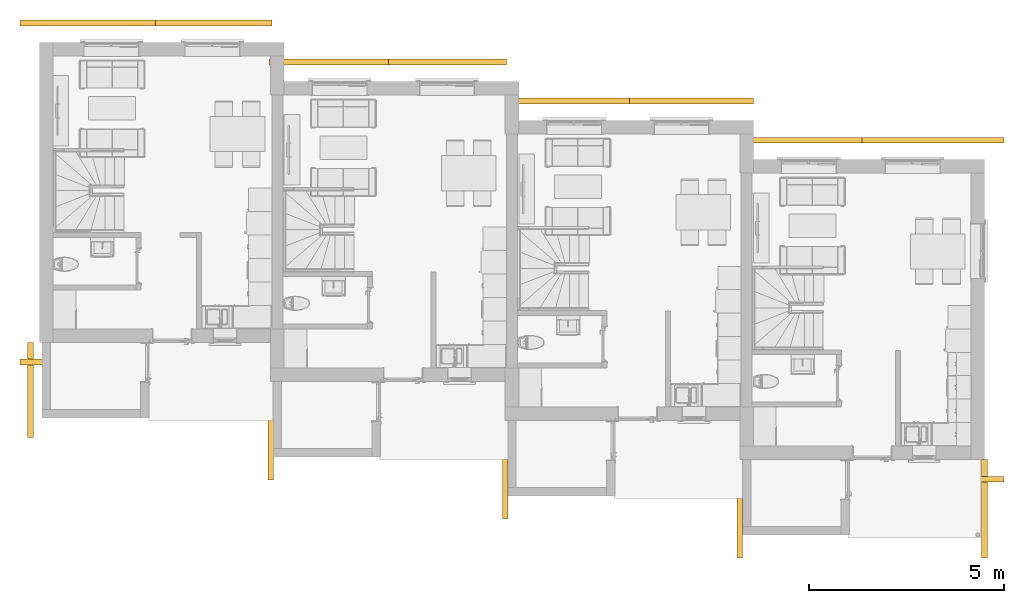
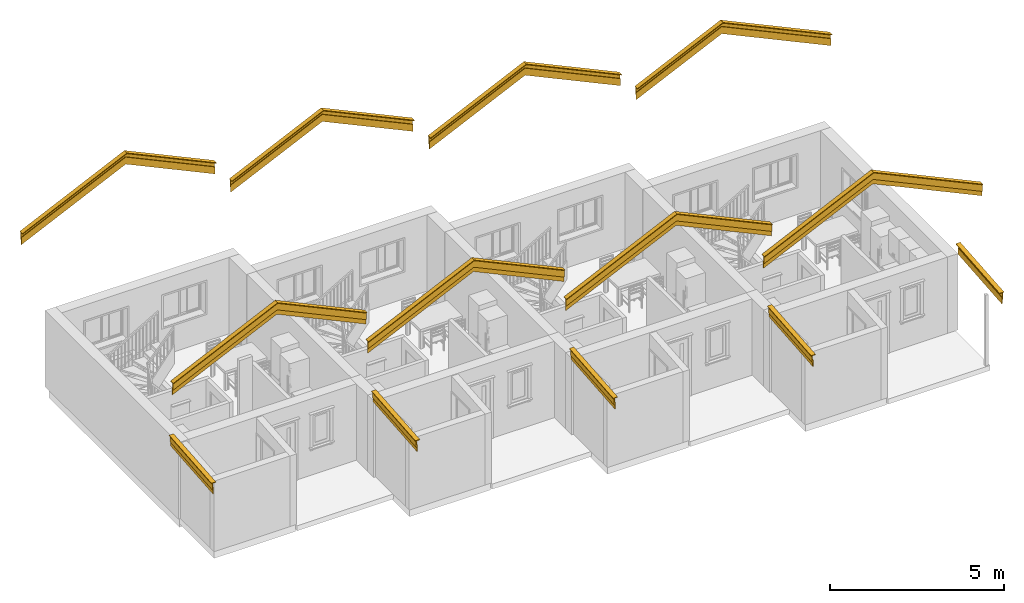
# One storey, part 27 of 65: 1 covering.
"""IFC2X3 building model written with IfcOpenShell, lengths in millimetres."""

import ifcopenshell
import ifcopenshell.guid

model = None  # the IFC model being written
_history = None  # IfcOwnerHistory: only IFC2X3 demands one
_inside = {}  # id of a spatial element -> (the spatial element, [elements in it])
_under = {}  # id of a project, library or spatial element -> (it, [spatial elements below it])
_declared = {}  # id of a project -> (the project, [libraries it declares])
_typed = {}  # id of a type object -> (the type object, [elements of that type])
_made_of = {}  # id of a material, layer set ... -> (it, [elements and type objects made of it])


def new_model(schema):
    """Start an empty IFC model of exactly this schema.

    Asked for "IFC4X3", IfcOpenShell would pick the latest addendum, in which some entities
    have other attributes; the version numbers below select the first issue.
    IFC2X3 requires an IfcOwnerHistory on every rooted entity: one is made here for all.
    """
    global model, _history
    if schema == "IFC4X3":
        model = ifcopenshell.file(schema_version=(4, 3, 0, 0))
    else:
        model = ifcopenshell.file(schema=schema)
    _inside.clear()
    _under.clear()
    _declared.clear()
    _typed.clear()
    _made_of.clear()
    _history = None
    if model.schema == "IFC2X3":
        org = make("IfcOrganization", Name="unknown")
        user = make(
            "IfcPersonAndOrganization",
            ThePerson=make("IfcPerson", FamilyName="unknown"),
            TheOrganization=org,
        )
        app = make(
            "IfcApplication",
            ApplicationDeveloper=org,
            Version="unknown",
            ApplicationFullName="unknown",
            ApplicationIdentifier="unknown",
        )
        _history = make(
            "IfcOwnerHistory",
            OwningUser=user,
            OwningApplication=app,
            ChangeAction="ADDED",
            CreationDate=0,
        )
    return model


def make(cls, **values):
    """One entity of the class cls with the attributes given. An attribute that is None is left unset."""
    return model.create_entity(
        cls, **{name: value for name, value in values.items() if value is not None}
    )


def entity(cls, *values):
    """Any entity or typed value of the class cls, its attributes in the order of the schema. None: left unset."""
    e = model.create_entity(cls)
    for i, value in enumerate(values):
        if value is not None:
            e[i] = value
    return e


def rooted(cls, **values):
    """An entity with a GlobalId (a new one), such as an element, a storey or a relation."""
    return make(cls, GlobalId=ifcopenshell.guid.new(), OwnerHistory=_history, **values)


def si_unit(unit_type, name, prefix=None):
    """IfcSIUnit, for example si_unit("LENGTHUNIT", "METRE", prefix="MILLI")."""
    return make("IfcSIUnit", UnitType=unit_type, Prefix=prefix, Name=name)


def converted_unit(unit_type, name, factor, base, dimensions=None, offset=None):
    """IfcConversionBasedUnit, such as the inch: factor (a typed value) times the base unit."""
    return make(
        "IfcConversionBasedUnit"
        if offset is None
        else "IfcConversionBasedUnitWithOffset",
        ConversionOffset=offset,
        Dimensions=None
        if dimensions is None
        else entity("IfcDimensionalExponents", *dimensions),
        UnitType=unit_type,
        Name=name,
        ConversionFactor=make(
            "IfcMeasureWithUnit", ValueComponent=factor, UnitComponent=base
        ),
    )


def assignment(units):
    """IfcUnitAssignment: the units of a project."""
    return None if units is None else make("IfcUnitAssignment", Units=units)


def point(xyz):
    """IfcCartesianPoint."""
    return None if xyz is None else make("IfcCartesianPoint", Coordinates=xyz)


def direction(xyz):
    """IfcDirection."""
    return None if xyz is None else make("IfcDirection", DirectionRatios=xyz)


def frame(location, z_axis=None, x_axis=None):
    """IfcAxis2Placement3D, a coordinate frame: its origin and axes. An axis left out is left unset."""
    return make(
        "IfcAxis2Placement3D",
        Location=point(location),
        Axis=direction(z_axis),
        RefDirection=direction(x_axis),
    )


def origin():
    """The frame at (0, 0, 0) with its axes left unset."""
    return frame((0.0, 0.0, 0.0))


def place(relative_to, where):
    """IfcLocalPlacement: puts the frame where relative to a parent placement (None: the world)."""
    return make(
        "IfcLocalPlacement", PlacementRelTo=relative_to, RelativePlacement=where
    )


def context(
    kind, dimensions, precision=None, world=None, true_north=None, identifier=None
):
    """IfcGeometricRepresentationContext, for example the 3D "Model" context."""
    return make(
        "IfcGeometricRepresentationContext",
        ContextIdentifier=identifier,
        ContextType=kind,
        CoordinateSpaceDimension=dimensions,
        Precision=precision,
        WorldCoordinateSystem=world,
        TrueNorth=true_north,
    )


def subcontext(parent, identifier, kind, view, scale=None):
    """IfcGeometricRepresentationSubContext, for example "Body" below "Model"."""
    return make(
        "IfcGeometricRepresentationSubContext",
        ContextIdentifier=identifier,
        ContextType=kind,
        ParentContext=parent,
        TargetScale=scale,
        TargetView=view,
    )


def project(units=None, contexts=None):
    """IfcProject with its units and contexts."""
    return rooted(
        "IfcProject",
        Name="project",
        RepresentationContexts=contexts,
        UnitsInContext=assignment(units),
    )


def spatial(cls, under=None, at=None, **own):
    """A site, building, storey or space (cls), placed at a placement, below another one or the project."""
    s = rooted(cls, ObjectPlacement=at, **own)
    if under is not None:
        _under.setdefault(under.id(), (under, []))[1].append(s)
    return s


def faces_of(points, faces, orient=None, outer=None):
    """IfcFace entities. A face is a list of loops; a loop is a list of indices into points, from 0.

    orient and outer hold one flag for each loop. By default every Orientation is true, the
    first loop of a face is its IfcFaceOuterBound and the others are IfcFaceBound.
    """
    made = []
    for i, loops in enumerate(faces):
        bounds = []
        for j, loop in enumerate(loops):
            is_outer = j == 0 if outer is None else outer[i][j]
            bounds.append(
                make(
                    "IfcFaceOuterBound" if is_outer else "IfcFaceBound",
                    Bound=make("IfcPolyLoop", Polygon=[points[k] for k in loop]),
                    Orientation=True if orient is None else orient[i][j],
                )
            )
        made.append(make("IfcFace", Bounds=bounds))
    return made


def faceted_brep(points, faces, orient=None, outer=None, voids=None):
    """IfcFacetedBrep: a solid bounded by flat faces; with voids (closed shells), ...WithVoids."""
    shared = [point(p) for p in points]
    hull = make("IfcClosedShell", CfsFaces=faces_of(shared, faces, orient, outer))
    if voids is None:
        return make("IfcFacetedBrep", Outer=hull)
    return make(
        "IfcFacetedBrepWithVoids",
        Outer=hull,
        Voids=[
            make(cls, CfsFaces=faces_of(shared, fs, o, b)) for cls, fs, o, b in voids
        ],
    )


def shape(context_of_items, identifier, shape_type, items):
    """IfcShapeRepresentation: the items that make up one representation, for example the "Body"."""
    return make(
        "IfcShapeRepresentation",
        ContextOfItems=context_of_items,
        RepresentationIdentifier=identifier,
        RepresentationType=shape_type,
        Items=items,
    )


def material(Name=None, Category=None):
    """IfcMaterial."""
    return make("IfcMaterial", Name=Name, Category=Category)


def made_of(thing, what):
    """Note that an element or type object is made of a material, layer set ...; save() writes the relation."""
    if what is not None:
        _made_of.setdefault(what.id(), (what, []))[1].append(thing)
    return thing


def type_object(cls, material=None, **own):
    """A type object (cls), such as IfcWallType, which elements share."""
    return made_of(rooted(cls, **own), material)


def element(
    cls,
    number,
    at=None,
    inside=None,
    cuts=None,
    type_object=None,
    material=None,
    context=None,
    identifier="Body",
    shape_type=None,
    held_by="IfcProductDefinitionShape",
    body=None,
    shapes=None,
    **own,
):
    """One element of the class cls, such as IfcWall. Its Tag is "e" and its number.

    at: its placement. inside: the storey or other place that contains it. cuts: it is an
    opening in that element (IfcRelVoidsElement). A single representation is given by context,
    identifier, shape_type and body (its items); several are given by shapes. held_by: the class
    of the entity that holds the representations. save() writes the other relations.
    """
    e = rooted(cls, Tag="e%d" % number, ObjectPlacement=at, **own)
    if body is not None:
        shapes = [shape(context, identifier, shape_type, body)]
    if shapes is not None:
        e.Representation = make(held_by, Representations=shapes)
    if inside is not None:
        _inside.setdefault(inside.id(), (inside, []))[1].append(e)
    if cuts is not None:
        rooted(
            "IfcRelVoidsElement", RelatingBuildingElement=cuts, RelatedOpeningElement=e
        )
    if type_object is not None:
        _typed.setdefault(type_object.id(), (type_object, []))[1].append(e)
    return made_of(e, material)


def aggregate(whole, parts):
    """IfcRelAggregates: a whole, such as a stair, and the parts it consists of."""
    return rooted("IfcRelAggregates", RelatingObject=whole, RelatedObjects=parts)


def save(model, path):
    """Write the relations noted so far, then the file.

    IfcRelAggregates (storeys below a building ...), IfcRelContainedInSpatialStructure (elements
    in a storey), IfcRelDefinesByType, IfcRelAssociatesMaterial and IfcRelDeclares: one each for
    every whole, place, type object, material and project.
    """
    for whole, parts in _under.values():
        aggregate(whole, parts)
    for where, things in _inside.values():
        rooted(
            "IfcRelContainedInSpatialStructure",
            RelatedElements=things,
            RelatingStructure=where,
        )
    for kind, things in _typed.values():
        rooted("IfcRelDefinesByType", RelatedObjects=things, RelatingType=kind)
    for what, things in _made_of.values():
        rooted("IfcRelAssociatesMaterial", RelatedObjects=things, RelatingMaterial=what)
    for by, libraries in _declared.values():
        rooted("IfcRelDeclares", RelatingContext=by, RelatedDefinitions=libraries)
    model.write(path)


model = new_model("IFC2X3")

# Units and contexts
model_context = context("Model", 3, precision=0.01, world=origin(), true_north=direction((0.0, 1.0)))
body_context = subcontext(model_context, "Body", "Model", "MODEL_VIEW")
ifc_project = project(units=[si_unit("LENGTHUNIT", "METRE", prefix="MILLI"), si_unit("AREAUNIT", "SQUARE_METRE"), si_unit("VOLUMEUNIT", "CUBIC_METRE"), converted_unit("PLANEANGLEUNIT", "DEGREE", entity("IfcPlaneAngleMeasure", 0.017453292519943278), si_unit("PLANEANGLEUNIT", "RADIAN"), dimensions=[0, 0, 0, 0, 0, 0, 0])], contexts=[model_context])

# Site, building, storey
site_placement = place(None, origin())
site = spatial("IfcSite", under=ifc_project, at=site_placement, Name="Default", CompositionType="ELEMENT")
building_placement = place(site_placement, origin())
building = spatial("IfcBuilding", under=site, at=building_placement, CompositionType="ELEMENT")
storey_placement = place(building_placement, origin())
storey = spatial("IfcBuildingStorey", under=building, at=storey_placement, Name="Et. 1", CompositionType="ELEMENT", Elevation=0.0)

# Covering
ifc_material = material(Name="Maling - Hvit")
covering_type = type_object("IfcCoveringType", Name="Fascia:Vindski", PredefinedType="NOTDEFINED")
covering_placement = place(storey_placement, frame((9591.009586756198, 5889.180957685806, 2444.2824070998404)))
element("IfcCovering", 1, at=covering_placement, inside=storey, type_object=covering_type, material=ifc_material, Name="Fascia:Vindski", PredefinedType="NOTDEFINED", context=body_context, shape_type="Brep", body=[
    faceted_brep([(0.0, 5093.0, 2847.121687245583), (0.0, 5093.0, 2822.847373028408), (0.0, 4997.0, 2822.847373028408), (0.0, 4997.0, 2657.3406851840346), (0.0, 5019.0, 2657.3406851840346), (0.0, 5019.0, 2411.2874092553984), (0.0, 4997.0, 2411.2874092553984), (0.0, 4997.0, 2576.7940970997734), (0.0, 4975.0, 2576.7940970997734), (0.0, 4975.0, 2822.847373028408), (0.0, 4945.0, 2822.847373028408), (0.0, 4945.0, 2847.121687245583), (3470.500000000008, 5093.0, 4465.442414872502), (3470.500000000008, 5093.0, 4441.1681006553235), (3470.500000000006, 4997.0, 4441.168100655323), (3470.500000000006, 4997.0, 4275.66141281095), (3470.500000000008, 5019.0, 4275.661412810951), (3470.500000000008, 5019.0, 4029.608136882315), (3470.500000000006, 4997.0, 4029.6081368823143), (3470.500000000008, 4997.0, 4195.114824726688), (3470.500000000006, 4975.0, 4195.114824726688), (3470.500000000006, 4975.0, 4441.1681006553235), (3470.500000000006, 4945.0, 4441.1681006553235), (3470.500000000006, 4945.0, 4465.442414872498), (6441.0, 5093.0, 3080.2755163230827), (6441.0, 4945.0, 3080.2755163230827), (6441.0, 4945.0, 3056.0012021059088), (6441.0, 4975.0, 3056.0012021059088), (6441.0, 4975.0, 2809.9479261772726), (6441.0, 4997.0, 2809.9479261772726), (6441.0, 4997.0, 2644.441238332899), (6441.0, 5019.0, 2644.441238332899), (6441.0, 5019.0, 2890.494514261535), (6441.0, 4997.0, 2890.494514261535), (6441.0, 4997.0, 3056.0012021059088), (6441.0, 5093.0, 3056.0012021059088)], [[[0, 1, 2, 3, 4, 5, 6, 7, 8, 9, 10, 11]], [[1, 0, 12, 13]], [[2, 1, 13, 14]], [[3, 2, 14, 15]], [[4, 3, 15, 16]], [[5, 4, 16, 17]], [[6, 5, 17, 18]], [[7, 6, 18, 19]], [[8, 7, 19, 20]], [[9, 8, 20, 21]], [[10, 9, 21, 22]], [[11, 10, 22, 23]], [[0, 11, 23, 12]], [[24, 25, 26, 27, 28, 29, 30, 31, 32, 33, 34, 35]], [[13, 12, 24, 35]], [[14, 13, 35, 34]], [[15, 14, 34, 33]], [[16, 15, 33, 32]], [[17, 16, 32, 31]], [[18, 17, 31, 30]], [[19, 18, 30, 29]], [[20, 19, 29, 28]], [[21, 20, 28, 27]], [[22, 21, 27, 26]], [[23, 22, 26, 25]], [[12, 23, 25, 24]]]),
    faceted_brep([(5914.0, 4093.0, 2847.121687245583), (5914.0, 4093.0, 2822.847373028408), (5914.0, 3997.0, 2822.847373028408), (5914.0, 3997.0, 2657.3406851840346), (5914.0, 4019.0, 2657.3406851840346), (5914.0, 4019.0, 2411.2874092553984), (5914.0, 3997.0, 2411.2874092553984), (5914.0, 3997.0, 2576.794097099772), (5914.0, 3975.0, 2576.794097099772), (5914.0, 3975.0, 2822.847373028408), (5914.0, 3945.0, 2822.847373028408), (5914.0, 3945.0, 2847.121687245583), (9427.500000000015, 4093.0, 4485.493644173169), (9427.500000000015, 4093.0, 4461.219329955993), (9427.50000000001, 3997.0, 4461.219329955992), (9427.50000000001, 3997.0, 4295.71264211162), (9427.50000000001, 4019.0, 4295.71264211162), (9427.50000000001, 4019.0, 4049.6593661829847), (9427.50000000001, 3997.0, 4049.6593661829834), (9427.500000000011, 3997.0, 4215.166054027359), (9427.50000000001, 3975.0, 4215.166054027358), (9427.50000000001, 3975.0, 4461.219329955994), (9427.500000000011, 3945.0, 4461.219329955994), (9427.50000000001, 3945.0, 4485.49364417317), (12441.0, 4093.0, 3080.2755163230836), (12441.0, 3945.0, 3080.2755163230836), (12441.0, 3945.0, 3056.001202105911), (12441.0, 3975.0, 3056.001202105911), (12441.0, 3975.0, 2809.947926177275), (12441.0, 3997.0, 2809.9479261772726), (12441.0, 3997.0, 2644.441238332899), (12441.0, 4019.0, 2644.4412383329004), (12441.0, 4019.0, 2890.4945142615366), (12441.0, 3997.0, 2890.4945142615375), (12441.0, 3997.0, 3056.001202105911), (12441.0, 4093.0, 3056.001202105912)], [[[0, 1, 2, 3, 4, 5, 6, 7, 8, 9, 10, 11]], [[1, 0, 12, 13]], [[2, 1, 13, 14]], [[3, 2, 14, 15]], [[4, 3, 15, 16]], [[5, 4, 16, 17]], [[6, 5, 17, 18]], [[7, 6, 18, 19]], [[8, 7, 19, 20]], [[9, 8, 20, 21]], [[10, 9, 21, 22]], [[11, 10, 22, 23]], [[0, 11, 23, 12]], [[24, 25, 26, 27, 28, 29, 30, 31, 32, 33, 34, 35]], [[13, 12, 24, 35]], [[14, 13, 35, 34]], [[15, 14, 34, 33]], [[16, 15, 33, 32]], [[17, 16, 32, 31]], [[18, 17, 31, 30]], [[19, 18, 30, 29]], [[20, 19, 29, 28]], [[21, 20, 28, 27]], [[22, 21, 27, 26]], [[23, 22, 26, 25]], [[12, 23, 25, 24]]]),
    faceted_brep([(11914.0, 3093.0, 2847.121687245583), (11914.0, 3093.0, 2822.847373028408), (11914.0, 2997.0, 2822.847373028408), (11914.0, 2997.0, 2657.3406851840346), (11914.0, 3019.0, 2657.3406851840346), (11914.0, 3019.0, 2411.2874092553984), (11914.0, 2997.0, 2411.2874092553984), (11914.0, 2997.0, 2576.794097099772), (11914.0, 2975.0, 2576.794097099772), (11914.0, 2975.0, 2822.847373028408), (11914.0, 2945.0, 2822.847373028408), (11914.0, 2945.0, 2847.121687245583), (15587.0, 3093.0, 4559.869715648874), (15587.0, 3093.0, 4535.595401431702), (15587.0, 2997.0, 4535.595401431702), (15587.0, 2997.0, 4370.088713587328), (15587.0, 3019.0, 4370.088713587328), (15587.0, 3019.0, 4124.035437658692), (15587.0, 2997.0, 4124.035437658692), (15587.0, 2997.0, 4289.542125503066), (15587.0, 2975.0, 4289.542125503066), (15587.0, 2975.0, 4535.595401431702), (15587.0, 2945.0, 4535.595401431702), (15587.0, 2945.0, 4559.869715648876), (18760.0, 3093.0, 3080.2755163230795), (18760.0, 2945.0, 3080.2755163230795), (18760.0, 2945.0, 3056.0012021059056), (18760.0, 2975.0, 3056.0012021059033), (18760.0, 2975.0, 2809.947926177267), (18760.0, 2997.0, 2809.9479261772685), (18760.0, 2997.0, 2644.441238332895), (18760.0, 3019.0, 2644.441238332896), (18760.0, 3019.0, 2890.494514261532), (18760.0, 2997.0, 2890.494514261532), (18760.0, 2997.0, 3056.0012021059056), (18760.0, 3093.0, 3056.0012021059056)], [[[0, 1, 2, 3, 4, 5, 6, 7, 8, 9, 10, 11]], [[1, 0, 12, 13]], [[2, 1, 13, 14]], [[3, 2, 14, 15]], [[4, 3, 15, 16]], [[5, 4, 16, 17]], [[6, 5, 17, 18]], [[7, 6, 18, 19]], [[8, 7, 19, 20]], [[9, 8, 20, 21]], [[10, 9, 21, 22]], [[11, 10, 22, 23]], [[0, 11, 23, 12]], [[24, 25, 26, 27, 28, 29, 30, 31, 32, 33, 34, 35]], [[13, 12, 24, 35]], [[14, 13, 35, 34]], [[15, 14, 34, 33]], [[16, 15, 33, 32]], [[17, 16, 32, 31]], [[18, 17, 31, 30]], [[19, 18, 30, 29]], [[20, 19, 29, 28]], [[21, 20, 28, 27]], [[22, 21, 27, 26]], [[23, 22, 26, 25]], [[12, 23, 25, 24]]]),
    faceted_brep([(17914.0, 2093.0, 2847.121687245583), (17914.0, 2093.0, 2822.847373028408), (17914.0, 1997.0, 2822.847373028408), (17914.0, 1997.0, 2657.3406851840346), (17914.0, 2019.0, 2657.3406851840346), (17914.0, 2019.0, 2411.2874092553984), (17914.0, 1997.0, 2411.2874092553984), (17914.0, 1997.0, 2576.794097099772), (17914.0, 1975.0, 2576.794097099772), (17914.0, 1975.0, 2822.847373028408), (17914.0, 1945.0, 2822.847373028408), (17914.0, 1945.0, 2847.121687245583), (21544.0, 2093.0, 4539.8184863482), (21544.0, 2093.0, 4515.544172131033), (21544.0, 1997.0, 4515.544172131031), (21544.0, 1997.0, 4350.037484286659), (21544.0, 2019.0, 4350.037484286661), (21544.0, 2019.0, 4103.984208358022), (21544.0, 1997.0, 4103.9842083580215), (21544.0, 1997.0, 4269.4908962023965), (21544.0, 1975.0, 4269.4908962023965), (21544.0, 1975.0, 4515.544172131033), (21544.0, 1945.0, 4515.544172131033), (21544.0, 1945.0, 4539.818486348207), (25174.0, 2093.0, 2847.121687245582), (25174.0, 1945.0, 2847.1216872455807), (25174.0, 1945.0, 2822.847373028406), (25174.0, 1975.0, 2822.847373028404), (25174.0, 1975.0, 2576.794097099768), (25174.0, 1997.0, 2576.794097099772), (25174.0, 1997.0, 2411.2874092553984), (25174.0, 2019.0, 2411.2874092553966), (25174.0, 2019.0, 2657.3406851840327), (25174.0, 1997.0, 2657.3406851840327), (25174.0, 1997.0, 2822.847373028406), (25174.0, 2093.0, 2822.847373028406)], [[[0, 1, 2, 3, 4, 5, 6, 7, 8, 9, 10, 11]], [[1, 0, 12, 13]], [[2, 1, 13, 14]], [[3, 2, 14, 15]], [[4, 3, 15, 16]], [[5, 4, 16, 17]], [[6, 5, 17, 18]], [[7, 6, 18, 19]], [[8, 7, 19, 20]], [[9, 8, 20, 21]], [[10, 9, 21, 22]], [[11, 10, 22, 23]], [[0, 11, 23, 12]], [[24, 25, 26, 27, 28, 29, 30, 31, 32, 33, 34, 35]], [[13, 12, 24, 35]], [[14, 13, 35, 34]], [[15, 14, 34, 33]], [[16, 15, 33, 32]], [[17, 16, 32, 31]], [[18, 17, 31, 30]], [[19, 18, 30, 29]], [[20, 19, 29, 28]], [[21, 20, 28, 27]], [[22, 21, 27, 26]], [[23, 22, 26, 25]], [[12, 23, 25, 24]]]),
    faceted_brep([(24600.0, 0.0, 396.5088358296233), (24600.0, 0.0, 374.4247994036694), (24696.0, 0.0, 374.4247994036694), (24696.0, 0.0, 223.85182377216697), (24674.0, 0.0, 223.85182377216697), (24674.0, 0.0, 0.0), (24696.0, 0.0, 0.0), (24696.0, 0.0, 150.57297563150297), (24718.0, 0.0, 150.57297563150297), (24718.0, 0.0, 374.4247994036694), (24748.0, 0.0, 374.4247994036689), (24748.0, 0.0, 396.5088358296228), (24600.0, 2519.0, 616.8927792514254), (24748.0, 2519.0, 616.8927792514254), (24748.0, 2519.0, 594.8087428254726), (24718.0, 2519.0, 594.808742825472), (24718.0, 2519.0, 370.95691905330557), (24696.0, 2519.0, 370.95691905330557), (24696.0, 2519.0, 220.38394342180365), (24674.0, 2519.0, 220.3839434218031), (24674.0, 2519.0, 444.23576719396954), (24696.0, 2519.0, 444.2357671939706), (24696.0, 2519.0, 594.8087428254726), (24600.0, 2519.0, 594.8087428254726)], [[[0, 1, 2, 3, 4, 5, 6, 7, 8, 9, 10, 11]], [[12, 13, 14, 15, 16, 17, 18, 19, 20, 21, 22, 23]], [[1, 0, 12, 23]], [[2, 1, 23, 22]], [[3, 2, 22, 21]], [[4, 3, 21, 20]], [[5, 4, 20, 19]], [[6, 5, 19, 18]], [[7, 6, 18, 17]], [[8, 7, 17, 16]], [[9, 8, 16, 15]], [[10, 9, 15, 14]], [[11, 10, 14, 13]], [[0, 11, 13, 12]]]),
    faceted_brep([(18701.0, 10619.0, 3214.1058142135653), (18701.0, 10767.0, 3214.1058142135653), (18701.0, 10767.0, 3189.831499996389), (18701.0, 10737.0, 3189.8314999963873), (18701.0, 10737.0, 2943.778224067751), (18701.0, 10715.0, 2943.778224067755), (18701.0, 10715.0, 2778.2715362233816), (18701.0, 10693.0, 2778.27153622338), (18701.0, 10693.0, 3024.324812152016), (18701.0, 10715.0, 3024.324812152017), (18701.0, 10715.0, 3189.831499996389), (18701.0, 10619.0, 3189.831499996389), (21544.0, 10619.0, 4515.544172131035), (21544.0, 10619.0, 4539.81848634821), (21544.0, 10715.0, 4515.544172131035), (21544.0, 10715.0, 4350.037484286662), (21544.0, 10693.0, 4350.037484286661), (21544.0, 10693.0, 4103.984208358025), (21544.0, 10715.0, 4103.984208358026), (21544.0, 10715.0, 4269.4908962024), (21544.0, 10737.0, 4269.4908962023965), (21544.0, 10737.0, 4515.544172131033), (21544.0, 10767.0, 4515.544172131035), (21544.0, 10767.0, 4539.81848634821), (25174.0, 10619.0, 2847.121687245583), (25174.0, 10619.0, 2822.847373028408), (25174.0, 10715.0, 2822.847373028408), (25174.0, 10715.0, 2657.3406851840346), (25174.0, 10693.0, 2657.3406851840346), (25174.0, 10693.0, 2411.2874092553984), (25174.0, 10715.0, 2411.2874092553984), (25174.0, 10715.0, 2576.794097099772), (25174.0, 10737.0, 2576.794097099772), (25174.0, 10737.0, 2822.847373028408), (25174.0, 10767.0, 2822.847373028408), (25174.0, 10767.0, 2847.121687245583)], [[[0, 1, 2, 3, 4, 5, 6, 7, 8, 9, 10, 11]], [[12, 13, 0, 11]], [[14, 12, 11, 10]], [[15, 14, 10, 9]], [[16, 15, 9, 8]], [[17, 16, 8, 7]], [[18, 17, 7, 6]], [[19, 18, 6, 5]], [[20, 19, 5, 4]], [[21, 20, 4, 3]], [[22, 21, 3, 2]], [[23, 22, 2, 1]], [[13, 23, 1, 0]], [[24, 25, 26, 27, 28, 29, 30, 31, 32, 33, 34, 35]], [[25, 24, 13, 12]], [[26, 25, 12, 14]], [[27, 26, 14, 15]], [[28, 27, 15, 16]], [[29, 28, 16, 17]], [[30, 29, 17, 18]], [[31, 30, 18, 19]], [[32, 31, 19, 20]], [[33, 32, 20, 21]], [[34, 33, 21, 22]], [[35, 34, 22, 23]], [[24, 35, 23, 13]]]),
    faceted_brep([(18760.0, 11619.0, 3080.2755163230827), (18760.0, 11619.0, 3056.001202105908), (18760.0, 11715.0, 3056.001202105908), (18760.0, 11715.0, 2890.4945142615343), (18760.0, 11693.0, 2890.4945142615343), (18760.0, 11693.0, 2644.441238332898), (18760.0, 11715.0, 2644.441238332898), (18760.0, 11715.0, 2809.9479261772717), (18760.0, 11737.0, 2809.9479261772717), (18760.0, 11737.0, 3056.001202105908), (18760.0, 11767.0, 3056.001202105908), (18760.0, 11767.0, 3080.2755163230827), (15587.0, 11619.0, 4559.869715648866), (15587.0, 11619.0, 4535.595401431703), (15587.0, 11715.0, 4535.595401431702), (15587.0, 11715.0, 4370.088713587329), (15587.0, 11693.0, 4370.088713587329), (15587.0, 11693.0, 4124.035437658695), (15587.0, 11715.0, 4124.035437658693), (15587.0, 11715.0, 4289.542125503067), (15587.0, 11737.0, 4289.542125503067), (15587.0, 11737.0, 4535.595401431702), (15587.0, 11767.0, 4535.595401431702), (15587.0, 11767.0, 4559.869715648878), (12406.0, 11619.0, 3076.545055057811), (12406.0, 11767.0, 3076.545055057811), (12406.0, 11767.0, 3052.270740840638), (12406.0, 11737.0, 3052.270740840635), (12406.0, 11737.0, 2806.217464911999), (12406.0, 11715.0, 2806.2174649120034), (12406.0, 11715.0, 2640.71077706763), (12406.0, 11693.0, 2640.7107770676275), (12406.0, 11693.0, 2886.7640529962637), (12406.0, 11715.0, 2886.764052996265), (12406.0, 11715.0, 3052.270740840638), (12406.0, 11619.0, 3052.270740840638)], [[[0, 1, 2, 3, 4, 5, 6, 7, 8, 9, 10, 11]], [[1, 0, 12, 13]], [[2, 1, 13, 14]], [[3, 2, 14, 15]], [[4, 3, 15, 16]], [[5, 4, 16, 17]], [[6, 5, 17, 18]], [[7, 6, 18, 19]], [[8, 7, 19, 20]], [[9, 8, 20, 21]], [[10, 9, 21, 22]], [[11, 10, 22, 23]], [[0, 11, 23, 12]], [[24, 25, 26, 27, 28, 29, 30, 31, 32, 33, 34, 35]], [[13, 12, 24, 35]], [[14, 13, 35, 34]], [[15, 14, 34, 33]], [[16, 15, 33, 32]], [[17, 16, 32, 31]], [[18, 17, 31, 30]], [[19, 18, 30, 29]], [[20, 19, 29, 28]], [[21, 20, 28, 27]], [[22, 21, 27, 26]], [[23, 22, 26, 25]], [[12, 23, 25, 24]]]),
    faceted_brep([(12441.0, 12619.0, 3080.2755163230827), (12441.0, 12619.0, 3056.001202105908), (12441.0, 12715.0, 3056.001202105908), (12441.0, 12715.0, 2890.4945142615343), (12441.0, 12693.0, 2890.4945142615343), (12441.0, 12693.0, 2644.441238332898), (12441.0, 12715.0, 2644.441238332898), (12441.0, 12715.0, 2809.9479261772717), (12441.0, 12737.0, 2809.9479261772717), (12441.0, 12737.0, 3056.001202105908), (12441.0, 12767.0, 3056.001202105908), (12441.0, 12767.0, 3080.2755163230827), (9427.500000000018, 12619.0, 4485.4936441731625), (9427.500000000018, 12619.0, 4461.219329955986), (9427.50000000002, 12715.0, 4461.219329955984), (9427.50000000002, 12715.0, 4295.712642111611), (9427.500000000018, 12693.0, 4295.712642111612), (9427.500000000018, 12693.0, 4049.659366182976), (9427.50000000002, 12715.0, 4049.6593661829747), (9427.500000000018, 12715.0, 4215.16605402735), (9427.50000000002, 12737.0, 4215.16605402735), (9427.50000000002, 12737.0, 4461.219329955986), (9427.50000000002, 12767.0, 4461.219329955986), (9427.50000000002, 12767.0, 4485.493644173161), (6381.0, 12619.0, 3064.8873636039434), (6381.0, 12767.0, 3064.8873636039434), (6381.0, 12767.0, 3040.6130493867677), (6381.0, 12737.0, 3040.613049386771), (6381.0, 12737.0, 2794.5597734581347), (6381.0, 12715.0, 2794.5597734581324), (6381.0, 12715.0, 2629.053085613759), (6381.0, 12693.0, 2629.0530856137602), (6381.0, 12693.0, 2875.1063615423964), (6381.0, 12715.0, 2875.106361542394), (6381.0, 12715.0, 3040.6130493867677), (6381.0, 12619.0, 3040.6130493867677)], [[[0, 1, 2, 3, 4, 5, 6, 7, 8, 9, 10, 11]], [[1, 0, 12, 13]], [[2, 1, 13, 14]], [[3, 2, 14, 15]], [[4, 3, 15, 16]], [[5, 4, 16, 17]], [[6, 5, 17, 18]], [[7, 6, 18, 19]], [[8, 7, 19, 20]], [[9, 8, 20, 21]], [[10, 9, 21, 22]], [[11, 10, 22, 23]], [[0, 11, 23, 12]], [[24, 25, 26, 27, 28, 29, 30, 31, 32, 33, 34, 35]], [[13, 12, 24, 35]], [[14, 13, 35, 34]], [[15, 14, 34, 33]], [[16, 15, 33, 32]], [[17, 16, 32, 31]], [[18, 17, 31, 30]], [[19, 18, 30, 29]], [[20, 19, 29, 28]], [[21, 20, 28, 27]], [[22, 21, 27, 26]], [[23, 22, 26, 25]], [[12, 23, 25, 24]]]),
    faceted_brep([(6441.0, 13619.0, 3080.2755163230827), (6441.0, 13619.0, 3056.001202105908), (6441.0, 13715.0, 3056.001202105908), (6441.0, 13715.0, 2890.4945142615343), (6441.0, 13693.0, 2890.4945142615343), (6441.0, 13693.0, 2644.441238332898), (6441.0, 13715.0, 2644.441238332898), (6441.0, 13715.0, 2809.9479261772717), (6441.0, 13737.0, 2809.9479261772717), (6441.0, 13737.0, 3056.001202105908), (6441.0, 13767.0, 3056.001202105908), (6441.0, 13767.0, 3080.2755163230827), (3470.50000000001, 13619.0, 4465.442414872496), (3470.500000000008, 13619.0, 4441.168100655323), (3470.5000000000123, 13715.0, 4441.168100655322), (3470.5000000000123, 13715.0, 4275.6614128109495), (3470.5000000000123, 13693.0, 4275.6614128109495), (3470.5000000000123, 13693.0, 4029.6081368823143), (3470.5000000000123, 13715.0, 4029.6081368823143), (3470.5000000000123, 13715.0, 4195.1148247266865), (3470.5000000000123, 13737.0, 4195.1148247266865), (3470.5000000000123, 13737.0, 4441.168100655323), (3470.5000000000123, 13767.0, 4441.168100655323), (3470.5000000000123, 13767.0, 4465.4424148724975), (0.0, 13619.0, 2847.121687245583), (0.0, 13767.0, 2847.121687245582), (0.0, 13767.0, 2822.847373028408), (0.0, 13737.0, 2822.847373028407), (0.0, 13737.0, 2576.794097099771), (0.0, 13715.0, 2576.7940970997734), (0.0, 13715.0, 2411.2874092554), (0.0, 13693.0, 2411.2874092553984), (0.0, 13693.0, 2657.3406851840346), (0.0, 13715.0, 2657.3406851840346), (0.0, 13715.0, 2822.847373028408), (0.0, 13619.0, 2822.847373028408)], [[[0, 1, 2, 3, 4, 5, 6, 7, 8, 9, 10, 11]], [[1, 0, 12, 13]], [[2, 1, 13, 14]], [[3, 2, 14, 15]], [[4, 3, 15, 16]], [[5, 4, 16, 17]], [[6, 5, 17, 18]], [[7, 6, 18, 19]], [[8, 7, 19, 20]], [[9, 8, 20, 21]], [[10, 9, 21, 22]], [[11, 10, 22, 23]], [[0, 11, 23, 12]], [[24, 25, 26, 27, 28, 29, 30, 31, 32, 33, 34, 35]], [[13, 12, 24, 35]], [[14, 13, 35, 34]], [[15, 14, 34, 33]], [[16, 15, 33, 32]], [[17, 16, 32, 31]], [[18, 17, 31, 30]], [[19, 18, 30, 29]], [[20, 19, 29, 28]], [[21, 20, 28, 27]], [[22, 21, 27, 26]], [[23, 22, 26, 25]], [[12, 23, 25, 24]]]),
    faceted_brep([(342.0, 5519.0, 609.2812655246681), (342.0, 5519.0, 587.1972290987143), (246.0, 5519.0, 587.1972290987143), (246.0, 5519.0, 436.6242534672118), (268.0, 5519.0, 436.6242534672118), (268.0, 5519.0, 212.77242969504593), (246.0, 5519.0, 212.77242969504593), (246.0, 5519.0, 363.34540532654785), (224.0, 5519.0, 363.34540532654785), (224.0, 5519.0, 587.1972290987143), (194.0, 5519.0, 587.1972290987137), (194.0, 5519.0, 609.2812655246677), (342.0, 3087.0, 396.5088358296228), (194.0, 3087.0, 396.5088358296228), (194.0, 3087.0, 374.4247994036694), (224.0, 3087.0, 374.4247994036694), (224.0, 3087.0, 150.57297563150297), (246.0, 3087.0, 150.57297563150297), (246.0, 3087.0, 0.0), (268.0, 3087.0, 0.0), (268.0, 3087.0, 223.85182377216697), (246.0, 3087.0, 223.8518237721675), (246.0, 3087.0, 374.4247994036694), (342.0, 3087.0, 374.4247994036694)], [[[0, 1, 2, 3, 4, 5, 6, 7, 8, 9, 10, 11]], [[12, 13, 14, 15, 16, 17, 18, 19, 20, 21, 22, 23]], [[1, 0, 12, 23]], [[2, 1, 23, 22]], [[3, 2, 22, 21]], [[4, 3, 21, 20]], [[5, 4, 20, 19]], [[6, 5, 19, 18]], [[7, 6, 18, 17]], [[8, 7, 17, 16]], [[9, 8, 16, 15]], [[10, 9, 15, 14]], [[11, 10, 14, 13]], [[0, 11, 13, 12]]]),
    faceted_brep([(6489.499999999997, 4519.0, 616.892779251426), (6489.499999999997, 4519.0, 594.808742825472), (6393.499999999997, 4519.0, 594.808742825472), (6393.499999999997, 4519.0, 444.23576719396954), (6415.499999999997, 4519.0, 444.23576719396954), (6415.499999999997, 4519.0, 220.38394342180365), (6393.499999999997, 4519.0, 220.38394342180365), (6393.499999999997, 4519.0, 370.95691905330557), (6371.499999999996, 4519.0, 370.95691905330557), (6371.499999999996, 4519.0, 594.808742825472), (6341.499999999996, 4519.0, 594.8087428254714), (6341.499999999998, 4519.0, 616.8927792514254), (6489.499999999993, 2000.0, 396.5088358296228), (6341.499999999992, 2000.0, 396.5088358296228), (6341.499999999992, 2000.0, 374.4247994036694), (6371.499999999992, 2000.0, 374.4247994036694), (6371.499999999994, 2000.0, 150.57297563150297), (6393.499999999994, 2000.0, 150.57297563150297), (6393.499999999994, 2000.0, 0.0), (6415.499999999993, 2000.0, 0.0), (6415.499999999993, 2000.0, 223.85182377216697), (6393.499999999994, 2000.0, 223.8518237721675), (6393.499999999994, 2000.0, 374.4247994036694), (6489.499999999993, 2000.0, 374.4247994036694)], [[[0, 1, 2, 3, 4, 5, 6, 7, 8, 9, 10, 11]], [[12, 13, 14, 15, 16, 17, 18, 19, 20, 21, 22, 23]], [[1, 0, 12, 23]], [[2, 1, 23, 22]], [[3, 2, 22, 21]], [[4, 3, 21, 20]], [[5, 4, 20, 19]], [[6, 5, 19, 18]], [[7, 6, 18, 17]], [[8, 7, 17, 16]], [[9, 8, 16, 15]], [[10, 9, 15, 14]], [[11, 10, 14, 13]], [[0, 11, 13, 12]]]),
    faceted_brep([(12488.0, 3519.0, 616.892779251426), (12488.0, 3519.0, 594.808742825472), (12392.0, 3519.0, 594.808742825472), (12392.0, 3519.0, 444.23576719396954), (12414.0, 3519.0, 444.23576719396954), (12414.0, 3519.0, 220.38394342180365), (12392.0, 3519.0, 220.38394342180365), (12392.0, 3519.0, 370.95691905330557), (12370.0, 3519.0, 370.95691905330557), (12370.0, 3519.0, 594.808742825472), (12340.0, 3519.0, 594.8087428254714), (12340.0, 3519.0, 616.8927792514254), (12488.0, 1000.0, 396.5088358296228), (12340.0, 1000.0, 396.5088358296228), (12340.0, 1000.0, 374.4247994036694), (12370.0, 1000.0, 374.4247994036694), (12370.0, 1000.0, 150.57297563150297), (12392.0, 1000.0, 150.57297563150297), (12392.0, 1000.0, 0.0), (12414.0, 1000.0, 0.0), (12414.0, 1000.0, 223.85182377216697), (12392.0, 1000.0, 223.8518237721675), (12392.0, 1000.0, 374.4247994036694), (12488.0, 1000.0, 374.4247994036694)], [[[0, 1, 2, 3, 4, 5, 6, 7, 8, 9, 10, 11]], [[12, 13, 14, 15, 16, 17, 18, 19, 20, 21, 22, 23]], [[1, 0, 12, 23]], [[2, 1, 23, 22]], [[3, 2, 22, 21]], [[4, 3, 21, 20]], [[5, 4, 20, 19]], [[6, 5, 19, 18]], [[7, 6, 18, 17]], [[8, 7, 17, 16]], [[9, 8, 16, 15]], [[10, 9, 15, 14]], [[11, 10, 14, 13]], [[0, 11, 13, 12]]]),
    faceted_brep([(18488.0, 2519.0, 616.892779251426), (18488.0, 2519.0, 594.808742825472), (18392.0, 2519.0, 594.808742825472), (18392.0, 2519.0, 444.23576719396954), (18414.0, 2519.0, 444.23576719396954), (18414.0, 2519.0, 220.38394342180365), (18392.0, 2519.0, 220.38394342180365), (18392.0, 2519.0, 370.95691905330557), (18370.0, 2519.0, 370.95691905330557), (18370.0, 2519.0, 594.808742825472), (18340.0, 2519.0, 594.8087428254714), (18340.0, 2519.0, 616.8927792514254), (18488.0, 0.0, 396.5088358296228), (18340.0, 0.0, 396.5088358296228), (18340.0, 0.0, 374.4247994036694), (18370.0, 0.0, 374.4247994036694), (18370.0, 0.0, 150.57297563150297), (18392.0, 0.0, 150.57297563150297), (18392.0, 0.0, 0.0), (18414.0, 0.0, 0.0), (18414.0, 0.0, 223.85182377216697), (18392.0, 0.0, 223.8518237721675), (18392.0, 0.0, 374.4247994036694), (18488.0, 0.0, 374.4247994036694)], [[[0, 1, 2, 3, 4, 5, 6, 7, 8, 9, 10, 11]], [[12, 13, 14, 15, 16, 17, 18, 19, 20, 21, 22, 23]], [[1, 0, 12, 23]], [[2, 1, 23, 22]], [[3, 2, 22, 21]], [[4, 3, 21, 20]], [[5, 4, 20, 19]], [[6, 5, 19, 18]], [[7, 6, 18, 17]], [[8, 7, 17, 16]], [[9, 8, 16, 15]], [[10, 9, 15, 14]], [[11, 10, 14, 13]], [[0, 11, 13, 12]]]),
])

save(model, "model.ifc")
